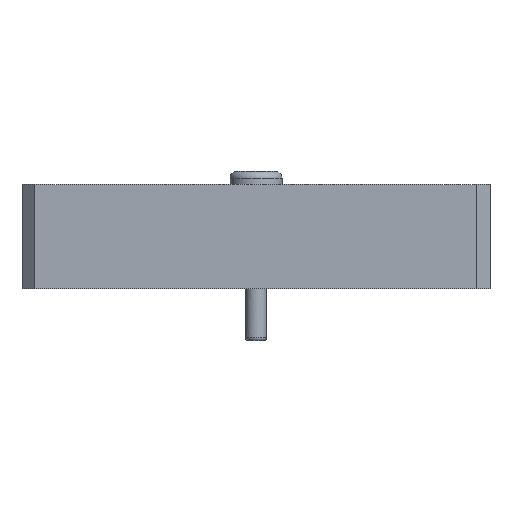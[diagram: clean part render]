
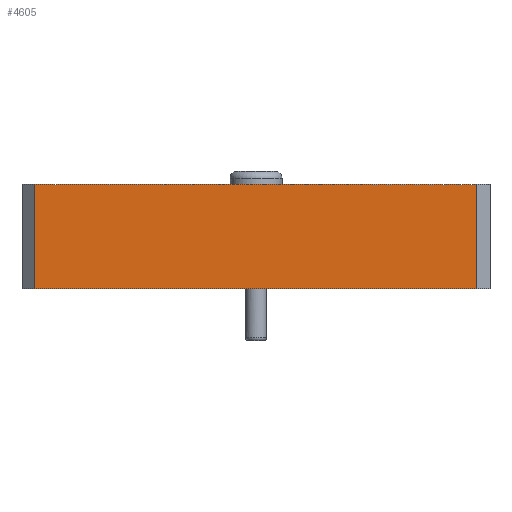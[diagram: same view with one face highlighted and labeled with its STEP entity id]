
A CAD part, front view. The second image highlights one B-rep face of the part: STEP entity #4605.
In plain terms, the highlighted planar face has unit normal (0, -1, 0).
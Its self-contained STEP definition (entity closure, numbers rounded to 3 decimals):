
#130=DIRECTION('',(-1.,0.,0.));
#131=VECTOR('',#130,17.);
#132=CARTESIAN_POINT('',(8.5,-9.,2.));
#133=LINE('',#132,#131);
#1047=DIRECTION('',(-1.,0.,0.));
#1048=VECTOR('',#1047,17.);
#1049=CARTESIAN_POINT('',(8.5,-9.,-2.));
#1050=LINE('',#1049,#1048);
#1051=DIRECTION('',(0.,0.,1.));
#1052=VECTOR('',#1051,4.);
#1053=CARTESIAN_POINT('',(-8.5,-9.,-2.));
#1054=LINE('',#1053,#1052);
#1055=DIRECTION('',(0.,0.,1.));
#1056=VECTOR('',#1055,4.);
#1057=CARTESIAN_POINT('',(8.5,-9.,-2.));
#1058=LINE('',#1057,#1056);
#2860=CARTESIAN_POINT('',(8.5,-9.,2.));
#2861=VERTEX_POINT('',#2860);
#2862=CARTESIAN_POINT('',(-8.5,-9.,2.));
#2863=VERTEX_POINT('',#2862);
#3468=CARTESIAN_POINT('',(-8.5,-9.,-2.));
#3469=VERTEX_POINT('',#3468);
#3470=CARTESIAN_POINT('',(8.5,-9.,-2.));
#3471=VERTEX_POINT('',#3470);
#4593=CARTESIAN_POINT('',(-8.5,-9.,2.));
#4594=DIRECTION('',(0.,-1.,0.));
#4595=DIRECTION('',(1.,0.,0.));
#4596=AXIS2_PLACEMENT_3D('',#4593,#4594,#4595);
#4597=PLANE('',#4596);
#4598=ORIENTED_EDGE('',*,*,#3667,.F.);
#4600=ORIENTED_EDGE('',*,*,#4599,.F.);
#4601=ORIENTED_EDGE('',*,*,#4135,.T.);
#4602=ORIENTED_EDGE('',*,*,#4579,.T.);
#4603=EDGE_LOOP('',(#4598,#4600,#4601,#4602));
#4604=FACE_OUTER_BOUND('',#4603,.F.);
#3667=EDGE_CURVE('',#2861,#2863,#133,.T.);
#4135=EDGE_CURVE('',#3471,#3469,#1050,.T.);
#4579=EDGE_CURVE('',#3469,#2863,#1054,.T.);
#4599=EDGE_CURVE('',#3471,#2861,#1058,.T.);
#4605=ADVANCED_FACE('',(#4604),#4597,.T.);
